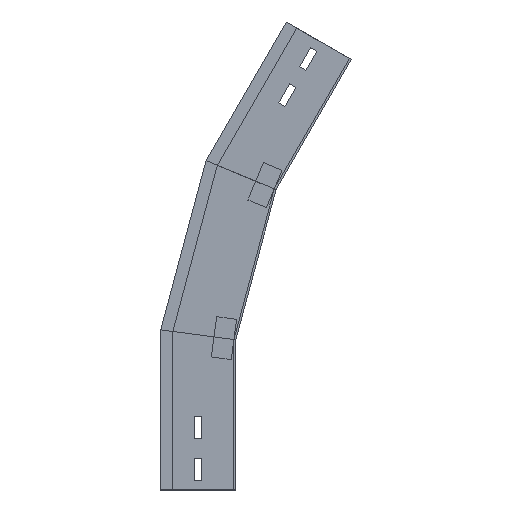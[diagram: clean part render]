
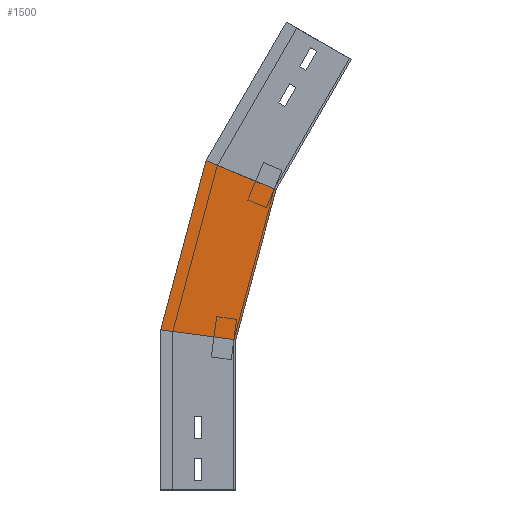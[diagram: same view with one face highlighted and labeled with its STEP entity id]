
A CAD part, left-side view. The second image highlights one B-rep face of the part: STEP entity #1500.
In plain terms, the highlighted planar face has unit normal (-1, 0, 0) as drawn and (1, 0, 0) by its records, which use the part's own axes.
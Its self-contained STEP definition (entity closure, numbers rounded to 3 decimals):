
#25 = VERTEX_POINT ( 'NONE', #868 ) ;
#52 = VECTOR ( 'NONE', #227, 1000. ) ;
#87 = ORIENTED_EDGE ( 'NONE', *, *, #570, .F. ) ;
#135 = CARTESIAN_POINT ( 'NONE',  ( 0., 29.772, 328.667 ) ) ;
#227 = DIRECTION ( 'NONE',  ( 0., -0.259, 0.966 ) ) ;
#254 = VECTOR ( 'NONE', #1010, 1000. ) ;
#321 = VERTEX_POINT ( 'NONE', #722 ) ;
#366 = ORIENTED_EDGE ( 'NONE', *, *, #1034, .T. ) ;
#383 = CARTESIAN_POINT ( 'NONE',  ( 0., -60.13, 291.429 ) ) ;
#388 = EDGE_CURVE ( 'NONE', #321, #25, #791, .T. ) ;
#442 = CARTESIAN_POINT ( 'NONE',  ( 0., 75.281, 158.824 ) ) ;
#455 = LINE ( 'NONE', #442, #52 ) ;
#463 = EDGE_LOOP ( 'NONE', ( #1475, #366, #1393, #87 ) ) ;
#570 = EDGE_CURVE ( 'NONE', #902, #321, #1143, .T. ) ;
#581 = EDGE_CURVE ( 'NONE', #902, #1003, #455, .T. ) ;
#671 = CARTESIAN_POINT ( 'NONE',  ( 0., 2.837, 139.412 ) ) ;
#687 = VECTOR ( 'NONE', #843, 1000. ) ;
#722 = CARTESIAN_POINT ( 'NONE',  ( 0., 0., 150. ) ) ;
#791 = LINE ( 'NONE', #1271, #887 ) ;
#843 = DIRECTION ( 'NONE',  ( 0., -0.924, -0.383 ) ) ;
#868 = CARTESIAN_POINT ( 'NONE',  ( 0., -40.117, 299.719 ) ) ;
#887 = VECTOR ( 'NONE', #1264, 1000. ) ;
#901 = PLANE ( 'NONE',  #1113 ) ;
#902 = VERTEX_POINT ( 'NONE', #1179 ) ;
#910 = DIRECTION ( 'NONE',  ( 0., 0., -1. ) ) ;
#957 = LINE ( 'NONE', #383, #687 ) ;
#1003 = VERTEX_POINT ( 'NONE', #135 ) ;
#1010 = DIRECTION ( 'NONE',  ( 0., -0.991, -0.131 ) ) ;
#1013 = FACE_OUTER_BOUND ( 'NONE', #463, .T. ) ;
#1034 = EDGE_CURVE ( 'NONE', #1003, #25, #957, .T. ) ;
#1096 = DIRECTION ( 'NONE',  ( 1., 0., 0. ) ) ;
#1113 = AXIS2_PLACEMENT_3D ( 'NONE', #671, #1096, #910 ) ;
#1143 = LINE ( 'NONE', #1280, #254 ) ;
#1179 = CARTESIAN_POINT ( 'NONE',  ( 0., 75., 159.874 ) ) ;
#1264 = DIRECTION ( 'NONE',  ( 0., -0.259, 0.966 ) ) ;
#1271 = CARTESIAN_POINT ( 'NONE',  ( 0., 2.837, 139.412 ) ) ;
#1280 = CARTESIAN_POINT ( 'NONE',  ( 0., -19.411, 147.444 ) ) ;
#1393 = ORIENTED_EDGE ( 'NONE', *, *, #388, .F. ) ;
#1475 = ORIENTED_EDGE ( 'NONE', *, *, #581, .T. ) ;
#1500 = ADVANCED_FACE ( 'NONE', ( #1013 ), #901, .T. ) ;
